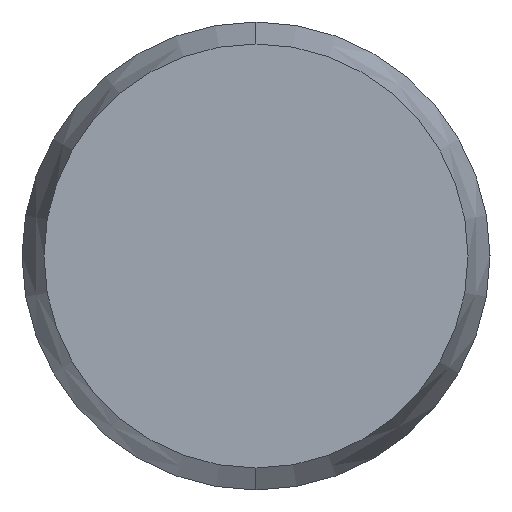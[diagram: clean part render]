
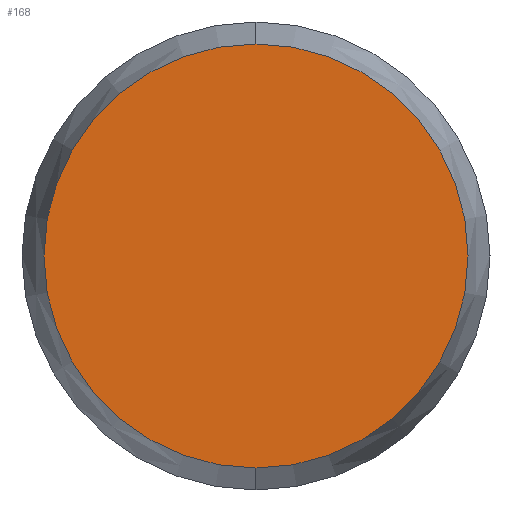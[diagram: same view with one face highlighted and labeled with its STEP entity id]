
A CAD part, left-side view. The second image highlights one B-rep face of the part: STEP entity #168.
In plain terms, the highlighted planar face has unit normal (-1, 0, 0).
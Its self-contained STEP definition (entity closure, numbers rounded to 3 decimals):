
#90 = DIRECTION ( 'NONE',  ( 0., 0., -1. ) ) ;
#95 = DIRECTION ( 'NONE',  ( 1., 0., 0. ) ) ;
#101 = CIRCLE ( 'NONE', #103, 1.812 ) ;
#102 = CARTESIAN_POINT ( 'NONE',  ( -6., 0., 0. ) ) ;
#103 = AXIS2_PLACEMENT_3D ( 'NONE', #102, #95, #90 ) ;
#138 = AXIS2_PLACEMENT_3D ( 'NONE', #139, #140, #141 ) ;
#139 = CARTESIAN_POINT ( 'NONE',  ( -6., 0., 0. ) ) ;
#140 = DIRECTION ( 'NONE',  ( 1., 0., 0. ) ) ;
#141 = DIRECTION ( 'NONE',  ( 0., 0., -1. ) ) ;
#143 = PLANE ( 'NONE',  #138 ) ;
#145 = FACE_OUTER_BOUND ( 'NONE', #151, .T. ) ;
#151 = EDGE_LOOP ( 'NONE', ( #156, #154 ) ) ;
#154 = ORIENTED_EDGE ( 'NONE', *, *, #169, .F. ) ;
#156 = ORIENTED_EDGE ( 'NONE', *, *, #236, .F. ) ;
#168 = ADVANCED_FACE ( 'NONE', ( #145 ), #143, .F. ) ;
#169 = EDGE_CURVE ( 'NONE', #210, #212, #101, .T. ) ;
#210 = VERTEX_POINT ( 'NONE', #275 ) ;
#212 = VERTEX_POINT ( 'NONE', #274 ) ;
#236 = EDGE_CURVE ( 'NONE', #212, #210, #255, .T. ) ;
#255 = CIRCLE ( 'NONE', #260, 1.812 ) ;
#257 = DIRECTION ( 'NONE',  ( 0., 0., -1. ) ) ;
#258 = DIRECTION ( 'NONE',  ( 1., 0., 0. ) ) ;
#259 = CARTESIAN_POINT ( 'NONE',  ( -6., 0., 0. ) ) ;
#260 = AXIS2_PLACEMENT_3D ( 'NONE', #259, #258, #257 ) ;
#274 = CARTESIAN_POINT ( 'NONE',  ( -6., 0., 1.812 ) ) ;
#275 = CARTESIAN_POINT ( 'NONE',  ( -6., 0., -1.812 ) ) ;
